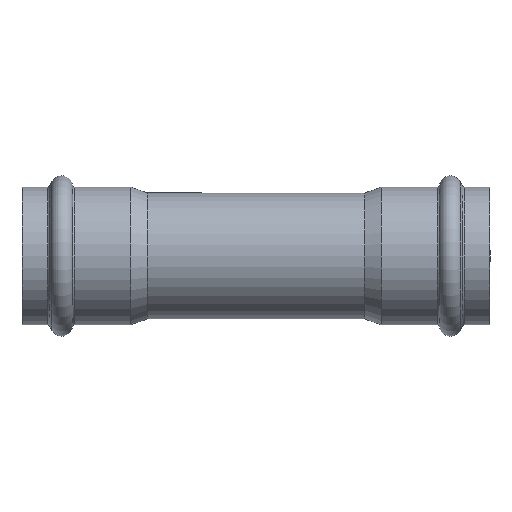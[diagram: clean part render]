
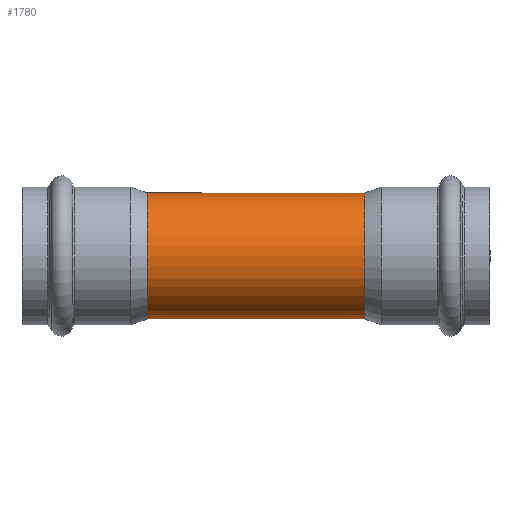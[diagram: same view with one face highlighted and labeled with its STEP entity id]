
A CAD part, front view. The second image highlights one B-rep face of the part: STEP entity #1780.
In plain terms, the highlighted cylindrical face has radius 17.5 mm (diameter 35 mm), a full revolution.
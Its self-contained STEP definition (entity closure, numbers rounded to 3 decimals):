
#1613=CARTESIAN_POINT('',(0.,15.543,-8.041));
#1614=VERTEX_POINT('',#1613);
#1676=CARTESIAN_POINT('',(0.,15.543,-8.041));
#1677=CARTESIAN_POINT('',(0.,15.543,-8.041));
#1678=CARTESIAN_POINT('',(0.,15.543,-8.041));
#1679=CARTESIAN_POINT('',(0.,15.543,-8.041));
#1680=CARTESIAN_POINT('',(-0.642,15.543,-8.041));
#1681=CARTESIAN_POINT('',(-1.767,15.607,-7.919));
#1682=CARTESIAN_POINT('',(-2.985,15.79,-7.548));
#1683=CARTESIAN_POINT('',(-3.858,15.962,-7.176));
#1684=CARTESIAN_POINT('',(-4.551,16.123,-6.811));
#1685=CARTESIAN_POINT('',(-5.442,16.367,-6.21));
#1686=CARTESIAN_POINT('',(-6.131,16.587,-5.595));
#1687=CARTESIAN_POINT('',(-6.945,16.87,-4.686));
#1688=CARTESIAN_POINT('',(-7.536,17.098,-3.804));
#1689=CARTESIAN_POINT('',(-8.001,17.288,-2.753));
#1690=CARTESIAN_POINT('',(-8.189,17.367,-2.172));
#1691=CARTESIAN_POINT('',(-8.418,17.464,-1.29));
#1692=CARTESIAN_POINT('',(-8.573,17.532,0.004));
#1693=CARTESIAN_POINT('',(-8.377,17.446,1.625));
#1694=CARTESIAN_POINT('',(-8.01,17.291,2.735));
#1695=CARTESIAN_POINT('',(-7.673,17.154,3.477));
#1696=CARTESIAN_POINT('',(-7.28,16.999,4.189));
#1697=CARTESIAN_POINT('',(-6.659,16.766,5.045));
#1698=CARTESIAN_POINT('',(-5.651,16.426,6.068));
#1699=CARTESIAN_POINT('',(-4.64,16.14,6.774));
#1700=CARTESIAN_POINT('',(-3.338,15.848,7.429));
#1701=CARTESIAN_POINT('',(-2.335,15.684,7.765));
#1702=CARTESIAN_POINT('',(-0.653,15.528,8.071));
#1703=CARTESIAN_POINT('',(0.867,15.529,8.071));
#1704=CARTESIAN_POINT('',(2.536,15.714,7.706));
#1705=CARTESIAN_POINT('',(3.718,15.925,7.264));
#1706=CARTESIAN_POINT('',(4.82,16.189,6.658));
#1707=CARTESIAN_POINT('',(6.125,16.572,5.673));
#1708=CARTESIAN_POINT('',(7.188,16.959,4.421));
#1709=CARTESIAN_POINT('',(7.928,17.256,2.982));
#1710=CARTESIAN_POINT('',(8.282,17.406,1.914));
#1711=CARTESIAN_POINT('',(8.426,17.468,1.118));
#1712=CARTESIAN_POINT('',(8.508,17.503,0.31));
#1713=CARTESIAN_POINT('',(8.508,17.504,-1.014));
#1714=CARTESIAN_POINT('',(8.122,17.335,-2.605));
#1715=CARTESIAN_POINT('',(7.373,17.034,-4.059));
#1716=CARTESIAN_POINT('',(6.545,16.724,-5.203));
#1717=CARTESIAN_POINT('',(5.348,16.328,-6.334));
#1718=CARTESIAN_POINT('',(4.152,16.02,-7.05));
#1719=CARTESIAN_POINT('',(2.99,15.791,-7.547));
#1720=CARTESIAN_POINT('',(2.071,15.653,-7.826));
#1721=CARTESIAN_POINT('',(0.966,15.562,-8.006));
#1722=CARTESIAN_POINT('',(0.321,15.543,-8.041));
#1723=CARTESIAN_POINT('',(0.,15.543,-8.041));
#1724=B_SPLINE_CURVE_WITH_KNOTS('',3,(#1676,#1677,#1678,#1679,#1680,#1681,#1682,#1683,#1684,#1685,#1686,#1687,#1688,#1689,#1690,#1691,#1692,#1693,#1694,#1695,#1696,#1697,#1698,#1699,#1700,#1701,#1702,#1703,#1704,#1705,#1706,#1707,#1708,#1709,#1710,#1711,#1712,#1713,#1714,#1715,#1716,#1717,#1718,#1719,#1720,#1721,#1722,#1723),.UNSPECIFIED.,.T.,.U.,(4,3,1,1,1,1,1,1,1,1,1,1,1,1,1,1,1,1,1,1,1,1,1,1,1,1,1,1,1,1,1,1,1,1,1,1,1,1,1,1,1,1,1,4),(-4.586,-4.586,-4.422,-4.299,-4.258,-4.176,-4.094,-3.971,-3.93,-3.767,-3.685,-3.623,-3.603,-3.439,-3.275,-3.166,-3.125,-3.057,-2.948,-2.839,-2.675,-2.62,-2.457,-2.402,-2.184,-2.074,-1.965,-1.856,-1.747,-1.529,-1.419,-1.31,-1.228,-1.201,-1.092,-0.873,-0.764,-0.655,-0.491,-0.328,-0.287,-0.164,-0.082,0.),.UNSPECIFIED.);
#1725=EDGE_CURVE('',#1614,#1614,#1724,.T.);
#1750=CARTESIAN_POINT('',(15.135,0.,0.0));
#1751=DIRECTION('',(1.0,0.,0.0));
#1752=DIRECTION('',(0.0,1.0,0.0));
#1753=AXIS2_PLACEMENT_3D('',#1750,#1751,#1752);
#1754=CYLINDRICAL_SURFACE('',#1753,17.5);
#1755=CARTESIAN_POINT('',(30.271,17.5,0.0));
#1756=VERTEX_POINT('',#1755);
#1757=CARTESIAN_POINT('',(30.271,0.,0.0));
#1758=DIRECTION('',(1.0,0.0,0.0));
#1759=DIRECTION('',(0.0,1.0,0.0));
#1760=AXIS2_PLACEMENT_3D('',#1757,#1758,#1759);
#1761=CIRCLE('',#1760,17.5);
#1762=EDGE_CURVE('',#1756,#1756,#1761,.T.);
#1763=ORIENTED_EDGE('',*,*,#1762,.F.);
#1764=EDGE_LOOP('',(#1763));
#1765=FACE_OUTER_BOUND('',#1764,.T.);
#1766=CARTESIAN_POINT('',(-30.271,17.5,0.0));
#1767=VERTEX_POINT('',#1766);
#1768=CARTESIAN_POINT('',(-30.271,0.,0.0));
#1769=DIRECTION('',(1.0,0.0,0.0));
#1770=DIRECTION('',(0.0,1.0,0.0));
#1771=AXIS2_PLACEMENT_3D('',#1768,#1769,#1770);
#1772=CIRCLE('',#1771,17.5);
#1773=EDGE_CURVE('',#1767,#1767,#1772,.T.);
#1774=ORIENTED_EDGE('',*,*,#1773,.T.);
#1775=EDGE_LOOP('',(#1774));
#1776=FACE_BOUND('',#1775,.T.);
#1777=ORIENTED_EDGE('',*,*,#1725,.F.);
#1778=EDGE_LOOP('',(#1777));
#1779=FACE_BOUND('',#1778,.T.);
#1780=ADVANCED_FACE('',(#1765,#1776,#1779),#1754,.T.);
